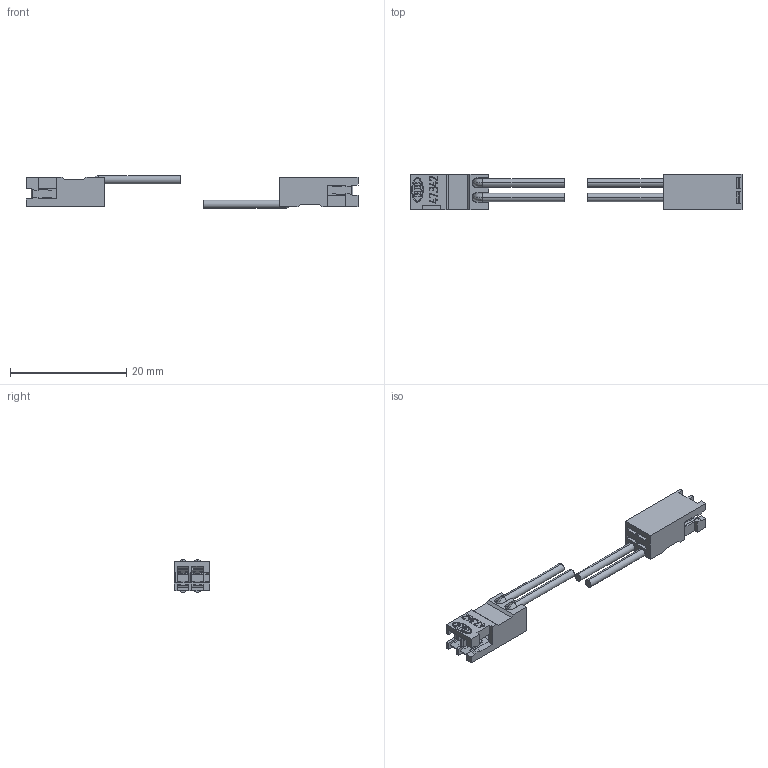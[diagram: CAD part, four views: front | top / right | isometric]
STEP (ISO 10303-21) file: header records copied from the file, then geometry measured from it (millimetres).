
FILE_DESCRIPTION((' '),'1');
FILE_NAME('013YJ06Y08.stp','2011-10-06 T13:52:31',(''),(''),'STEP Interface 2011 Sp1 by CT CoreTechnologie','3D_Evolution2011 Sp1 by CT CoreTechnologie','');
FILE_SCHEMA(('AP203_CONFIGURATION_CONTROLLED_3D_DESIGN_OF_MECHANICAL_PARTS_AND_ASSEMBLIES_MIM_LF'));
Length unit declared in the file: millimetre
Products named in the file (3): 013YJ06Y08; 013-J05-05-oa0; 013-J05-05
Assembly tree (2 placements, depth 2):
  013YJ06Y08
    013-J05-05-oa0
    013-J05-05
Bounding box: 57 x 6.1 x 5.6 mm (x, y, z)
Volume: 611.7 mm3; surface area: 1865.1 mm2
Topology: 2 solids, 2 shells, 560 faces, 1560 edges, 1030 vertices
Faces by surface type: plane 452, cylinder 76, bspline 32
Entity records: 24005 total; most frequent: CARTESIAN_POINT 4521, ORIENTED_EDGE 3120, DIRECTION 2734, EDGE_CURVE 1560, VECTOR 1344, LINE 1344, VERTEX_POINT 1030, AXIS2_PLACEMENT_3D 695
